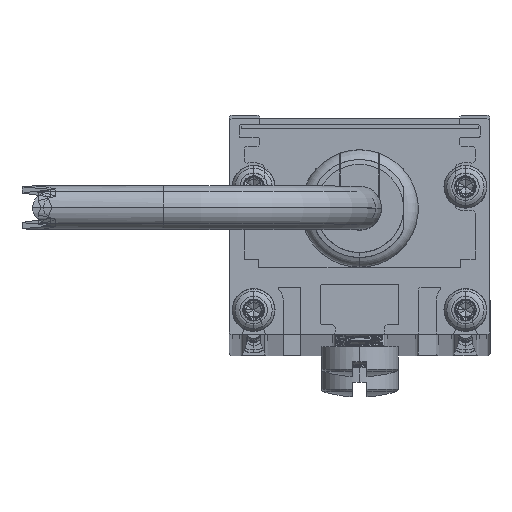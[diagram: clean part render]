
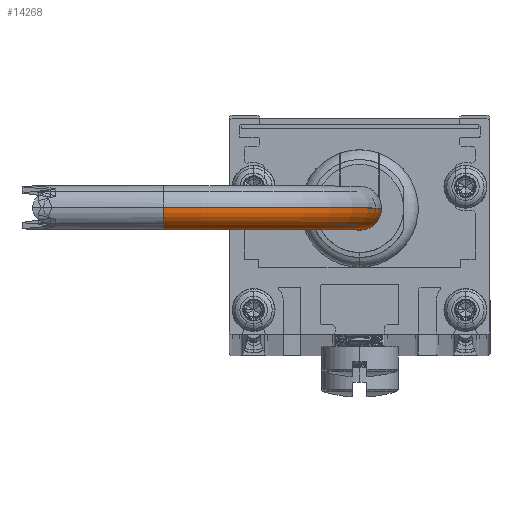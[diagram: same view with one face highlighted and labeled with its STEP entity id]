
A CAD part, top view. The second image highlights one B-rep face of the part: STEP entity #14268.
In plain terms, the highlighted toroidal (fillet/blend) face has major radius 25.4 mm and minor radius 2.845 mm.
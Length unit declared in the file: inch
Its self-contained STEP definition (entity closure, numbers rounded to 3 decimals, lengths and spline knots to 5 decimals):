
#1352 = DIRECTION ( 'NONE',  ( 0., -1., 0. ) ) ;
#1405 = DIRECTION ( 'NONE',  ( 1., 0., 0. ) ) ;
#1783 = CARTESIAN_POINT ( 'NONE',  ( 1., 0., -2.112 ) ) ;
#2481 = AXIS2_PLACEMENT_3D ( 'NONE', #3704, #15701, #4216 ) ;
#3021 = AXIS2_PLACEMENT_3D ( 'NONE', #9670, #15496, #12522 ) ;
#3273 = VERTEX_POINT ( 'NONE', #6752 ) ;
#3427 = EDGE_CURVE ( 'NONE', #3273, #5950, #13188, .T. ) ;
#3482 = AXIS2_PLACEMENT_3D ( 'NONE', #6495, #5200, #18272 ) ;
#3704 = CARTESIAN_POINT ( 'NONE',  ( 1., 0., -1. ) ) ;
#4122 = CARTESIAN_POINT ( 'NONE',  ( 0., 0., -1. ) ) ;
#4216 = DIRECTION ( 'NONE',  ( 0., 0., -1. ) ) ;
#4864 = CIRCLE ( 'NONE', #3482, 0.888 ) ;
#5200 = DIRECTION ( 'NONE',  ( 0., -1., 0. ) ) ;
#5570 = ORIENTED_EDGE ( 'NONE', *, *, #18648, .F. ) ;
#5950 = VERTEX_POINT ( 'NONE', #8499 ) ;
#6495 = CARTESIAN_POINT ( 'NONE',  ( 1., 0., -1. ) ) ;
#6752 = CARTESIAN_POINT ( 'NONE',  ( -0.112, 0., -1. ) ) ;
#7332 = EDGE_CURVE ( 'NONE', #9960, #13588, #13598, .T. ) ;
#7725 = EDGE_CURVE ( 'NONE', #3273, #9960, #14698, .T. ) ;
#7903 = TOROIDAL_SURFACE ( 'NONE', #2481, 1., 0.112 ) ;
#8499 = CARTESIAN_POINT ( 'NONE',  ( 0.112, 0., -1. ) ) ;
#9670 = CARTESIAN_POINT ( 'NONE',  ( 1., 0., -2. ) ) ;
#9915 = ORIENTED_EDGE ( 'NONE', *, *, #7725, .T. ) ;
#9960 = VERTEX_POINT ( 'NONE', #1783 ) ;
#10017 = CARTESIAN_POINT ( 'NONE',  ( 1., 0., -1. ) ) ;
#10216 = FACE_OUTER_BOUND ( 'NONE', #12745, .T. ) ;
#11056 = AXIS2_PLACEMENT_3D ( 'NONE', #10017, #1352, #1405 ) ;
#11485 = AXIS2_PLACEMENT_3D ( 'NONE', #4122, #15660, #15543 ) ;
#12522 = DIRECTION ( 'NONE',  ( 0., 0., 1. ) ) ;
#12745 = EDGE_LOOP ( 'NONE', ( #13200, #9915, #16219, #5570 ) ) ;
#13188 = CIRCLE ( 'NONE', #11485, 0.112 ) ;
#13200 = ORIENTED_EDGE ( 'NONE', *, *, #3427, .F. ) ;
#13588 = VERTEX_POINT ( 'NONE', #14490 ) ;
#13598 = CIRCLE ( 'NONE', #3021, 0.112 ) ;
#14268 = ADVANCED_FACE ( 'NONE', ( #10216 ), #7903, .T. ) ;
#14490 = CARTESIAN_POINT ( 'NONE',  ( 1., 0., -1.888 ) ) ;
#14698 = CIRCLE ( 'NONE', #11056, 1.112 ) ;
#15496 = DIRECTION ( 'NONE',  ( -1., 0., 0. ) ) ;
#15543 = DIRECTION ( 'NONE',  ( 1., 0., 0. ) ) ;
#15660 = DIRECTION ( 'NONE',  ( 0., 0., 1. ) ) ;
#15701 = DIRECTION ( 'NONE',  ( 0., -1., 0. ) ) ;
#16219 = ORIENTED_EDGE ( 'NONE', *, *, #7332, .T. ) ;
#18272 = DIRECTION ( 'NONE',  ( 1., 0., 0. ) ) ;
#18648 = EDGE_CURVE ( 'NONE', #5950, #13588, #4864, .T. ) ;
